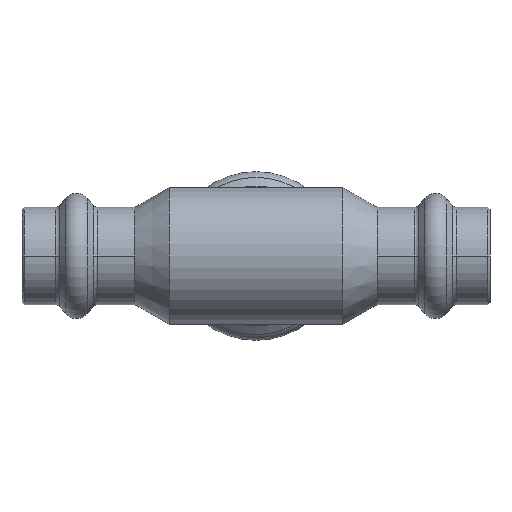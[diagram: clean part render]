
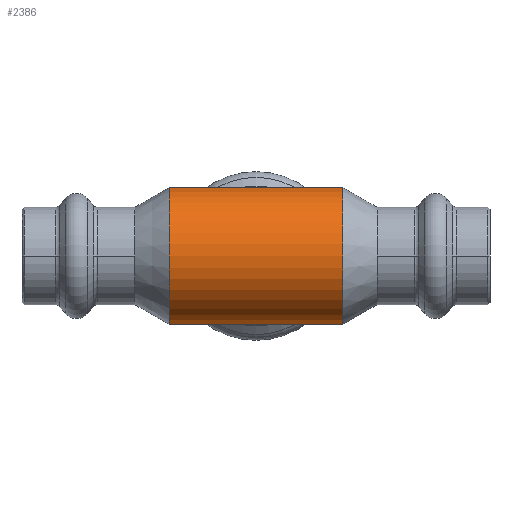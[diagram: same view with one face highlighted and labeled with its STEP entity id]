
A CAD part, front view. The second image highlights one B-rep face of the part: STEP entity #2386.
In plain terms, the highlighted cylindrical face has radius 12.6 mm (diameter 25.2 mm), a partial arc.
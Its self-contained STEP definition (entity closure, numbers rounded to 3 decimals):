
#96 = CIRCLE ( 'NONE', #787, 12.6 ) ;
#173 = ORIENTED_EDGE ( 'NONE', *, *, #3183, .F. ) ;
#228 = DIRECTION ( 'NONE',  ( -1., 0., 0. ) ) ;
#263 = DIRECTION ( 'NONE',  ( 0., 0., 1. ) ) ;
#478 = DIRECTION ( 'NONE',  ( -1., 0., 0. ) ) ;
#505 = CARTESIAN_POINT ( 'NONE',  ( -58.611, 0., 0. ) ) ;
#594 = CARTESIAN_POINT ( 'NONE',  ( 15.923, 0., 12.6 ) ) ;
#706 = VERTEX_POINT ( 'NONE', #2405 ) ;
#736 = DIRECTION ( 'NONE',  ( 0., 0., 1. ) ) ;
#762 = DIRECTION ( 'NONE',  ( 1., 0., 0. ) ) ;
#778 = CARTESIAN_POINT ( 'NONE',  ( 15.923, 0., 0. ) ) ;
#787 = AXIS2_PLACEMENT_3D ( 'NONE', #778, #762, #736 ) ;
#1029 = AXIS2_PLACEMENT_3D ( 'NONE', #4831, #4818, #4807 ) ;
#1085 = VECTOR ( 'NONE', #4435, 1000. ) ;
#1172 = CARTESIAN_POINT ( 'NONE',  ( -15.923, 0., 12.6 ) ) ;
#1303 = VERTEX_POINT ( 'NONE', #3602 ) ;
#1986 = VERTEX_POINT ( 'NONE', #594 ) ;
#2090 = FACE_OUTER_BOUND ( 'NONE', #4119, .T. ) ;
#2107 = VERTEX_POINT ( 'NONE', #1172 ) ;
#2386 = ADVANCED_FACE ( 'NONE', ( #2090 ), #4229, .T. ) ;
#2405 = CARTESIAN_POINT ( 'NONE',  ( 15.923, 0., -12.6 ) ) ;
#2670 = AXIS2_PLACEMENT_3D ( 'NONE', #505, #228, #263 ) ;
#3054 = ORIENTED_EDGE ( 'NONE', *, *, #3298, .F. ) ;
#3183 = EDGE_CURVE ( 'NONE', #1303, #2107, #3672, .T. ) ;
#3298 = EDGE_CURVE ( 'NONE', #706, #1303, #4590, .T. ) ;
#3435 = EDGE_CURVE ( 'NONE', #1986, #706, #96, .T. ) ;
#3543 = EDGE_CURVE ( 'NONE', #1986, #2107, #4492, .T. ) ;
#3602 = CARTESIAN_POINT ( 'NONE',  ( -15.923, 0., -12.6 ) ) ;
#3672 = CIRCLE ( 'NONE', #1029, 12.6 ) ;
#3806 = ORIENTED_EDGE ( 'NONE', *, *, #3435, .F. ) ;
#4009 = CARTESIAN_POINT ( 'NONE',  ( -58.611, 0., 12.6 ) ) ;
#4119 = EDGE_LOOP ( 'NONE', ( #3054, #3806, #4461, #173 ) ) ;
#4202 = CARTESIAN_POINT ( 'NONE',  ( -58.611, 0., -12.6 ) ) ;
#4229 = CYLINDRICAL_SURFACE ( 'NONE', #2670, 12.6 ) ;
#4435 = DIRECTION ( 'NONE',  ( -1., 0., 0. ) ) ;
#4461 = ORIENTED_EDGE ( 'NONE', *, *, #3543, .T. ) ;
#4492 = LINE ( 'NONE', #4009, #4929 ) ;
#4590 = LINE ( 'NONE', #4202, #1085 ) ;
#4807 = DIRECTION ( 'NONE',  ( 0., 0., -1. ) ) ;
#4818 = DIRECTION ( 'NONE',  ( -1., 0., 0. ) ) ;
#4831 = CARTESIAN_POINT ( 'NONE',  ( -15.923, 0., 0. ) ) ;
#4929 = VECTOR ( 'NONE', #478, 1000. ) ;
